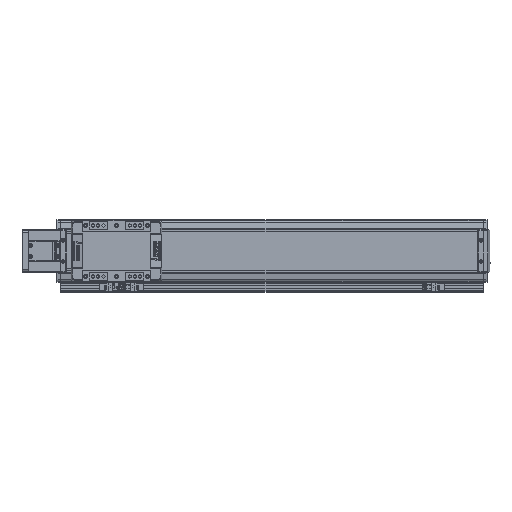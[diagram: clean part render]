
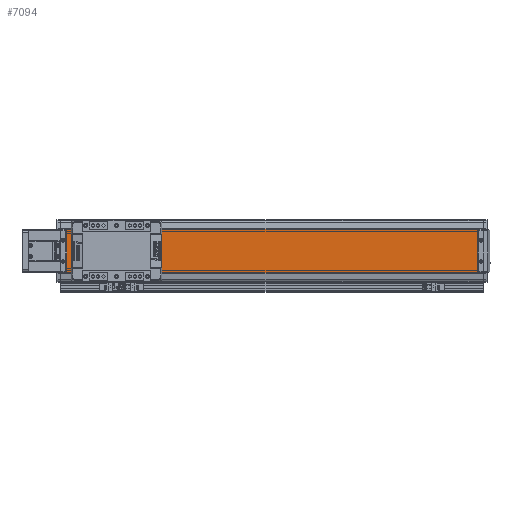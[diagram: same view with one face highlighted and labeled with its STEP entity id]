
A CAD part, top view. The second image highlights one B-rep face of the part: STEP entity #7094.
In plain terms, the highlighted planar face has unit normal (0, 0, 1).
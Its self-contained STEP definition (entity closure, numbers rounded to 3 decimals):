
#7094=ADVANCED_FACE('',(#15220),#15221,.T.);
#15220=FACE_OUTER_BOUND('',#25229,.T.);
#15221=PLANE('',#25230);
#25229=EDGE_LOOP('',(#45444,#45445,#45446,#45447));
#25230=AXIS2_PLACEMENT_3D('',#45448,#45449,#45450);
#45444=ORIENTED_EDGE('',*,*,#64129,.T.);
#45445=ORIENTED_EDGE('',*,*,#64130,.F.);
#45446=ORIENTED_EDGE('',*,*,#64131,.T.);
#45447=ORIENTED_EDGE('',*,*,#64132,.T.);
#45448=CARTESIAN_POINT('',(-580.,0.,20.15));
#45449=DIRECTION('',(0.,0.,1.0));
#45450=DIRECTION('',(0.,-1.0,0.));
#64129=EDGE_CURVE('',#79347,#79348,#79349,.T.);
#64130=EDGE_CURVE('',#79350,#79348,#79351,.T.);
#64131=EDGE_CURVE('',#79350,#79352,#79353,.T.);
#64132=EDGE_CURVE('',#79352,#79347,#79354,.T.);
#79347=VERTEX_POINT('',#100217);
#79348=VERTEX_POINT('',#100218);
#79349=LINE('',#100219,#100220);
#79350=VERTEX_POINT('',#100221);
#79351=LINE('',#100222,#100223);
#79352=VERTEX_POINT('',#100224);
#79353=LINE('',#100225,#100226);
#79354=LINE('',#100227,#100228);
#100217=CARTESIAN_POINT('',(100.,-35.,20.15));
#100218=CARTESIAN_POINT('',(100.,35.,20.15));
#100219=CARTESIAN_POINT('',(100.,35.,20.15));
#100220=VECTOR('',#114879,10.0);
#100221=CARTESIAN_POINT('',(-580.,35.,20.15));
#100222=CARTESIAN_POINT('',(-580.,35.,20.15));
#100223=VECTOR('',#114880,10.0);
#100224=CARTESIAN_POINT('',(-580.,-35.,20.15));
#100225=CARTESIAN_POINT('',(-580.,35.,20.15));
#100226=VECTOR('',#114881,10.0);
#100227=CARTESIAN_POINT('',(-580.,-35.,20.15));
#100228=VECTOR('',#114882,10.0);
#114879=DIRECTION('',(0.,1.0,0.));
#114880=DIRECTION('',(1.0,0.,0.));
#114881=DIRECTION('',(0.,-1.0,0.));
#114882=DIRECTION('',(1.0,0.,0.));
